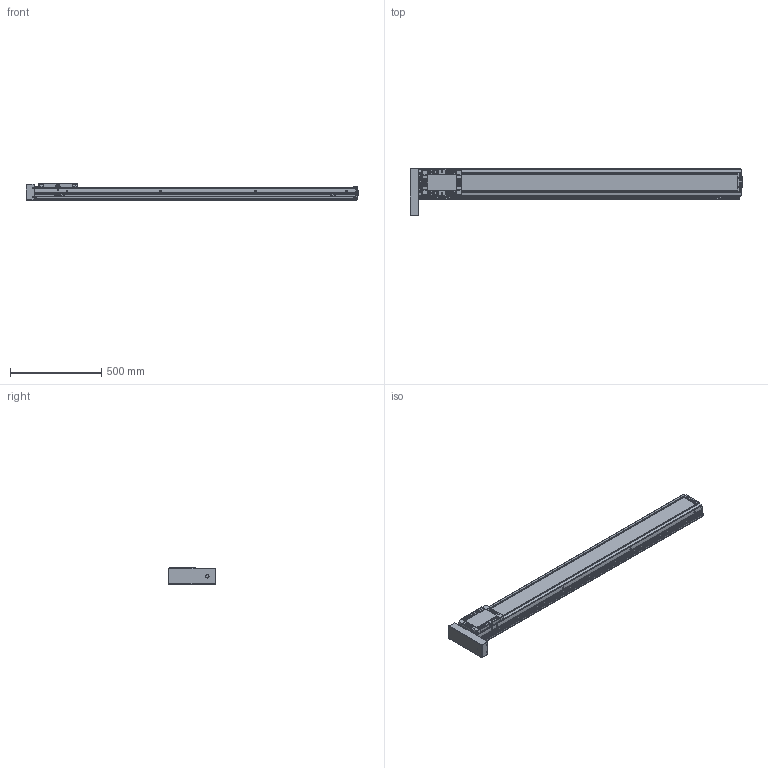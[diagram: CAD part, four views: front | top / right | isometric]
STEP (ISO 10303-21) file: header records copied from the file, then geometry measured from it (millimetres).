
FILE_DESCRIPTION(('STEP AP214'),'1');
FILE_NAME('Z:/Web/3D/SAN150/2013.04 (STP.)/SAN150ㅁㅁ-1500PR+3SR.stp','2013-05-07T08:24:49',(' '),(' '),'Spatial InterOp 3D',' ',' ');
FILE_SCHEMA(('automotive_design'));
Length unit declared in the file: millimetre
Products named in the file (62): SLBL-SAN150; SLCV-SAN150; FHCS M4.0 x 8.0; BHCS M4.0 x 10.0; SFX-SAN150; RRCV-SAN150; FRBL-SAN150; Spacer; RN15; FRCV-SAN150; Screw 20; BASE-SAN150-000L ; SUS COVER; 스크루 : Round - M5.0 x 6.0; BHCS M3.0 x 6.0; P; M3.0 x 6.0; SRL-16x17-360L; SGD-SAN150; EE-SX674; SBK-SX674-352; 스크루 : Round - M3.0 x 6.0
Bounding box: 1820 x 260.73 x 90 mm (x, y, z)
Volume: 10211865.7 mm3; surface area: 1953835.5 mm2
Topology: 62 solids, 62 shells, 2930 faces, 7531 edges, 4812 vertices
Faces by surface type: plane 1456, cylinder 991, cone 362, sphere 88, bspline 21, torus 12
Entity records: 116534 total; most frequent: CARTESIAN_POINT 19117, DIRECTION 15976, ORIENTED_EDGE 14750, EDGE_CURVE 7375, AXIS2_PLACEMENT_3D 5762, VERTEX_POINT 4812, LINE 4452, VECTOR 4452
